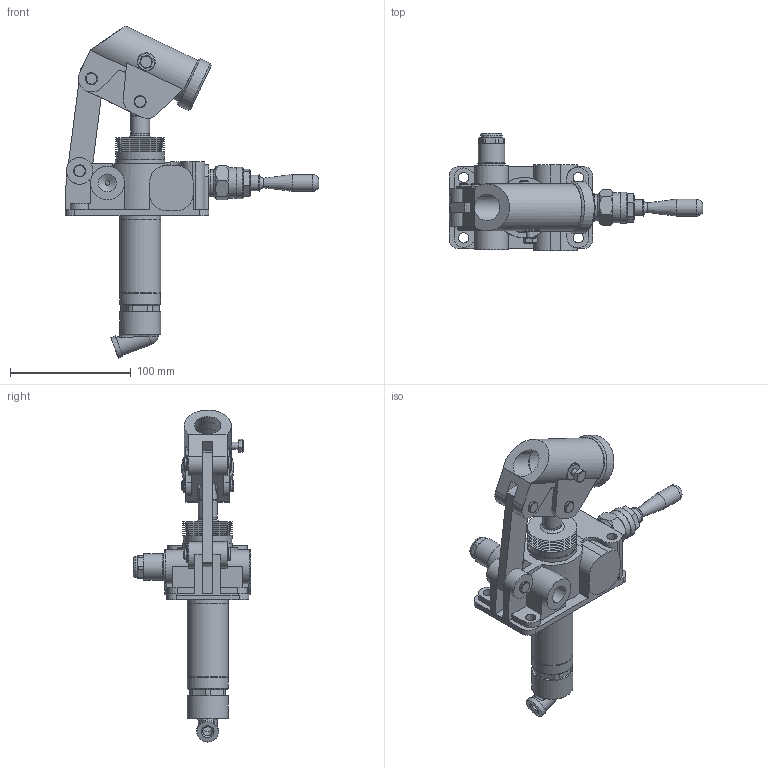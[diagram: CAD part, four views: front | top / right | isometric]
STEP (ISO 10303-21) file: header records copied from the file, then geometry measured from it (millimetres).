
FILE_DESCRIPTION(/* description */ ('Unknown'),/* implementation_level */ '2;1');
FILE_NAME(/* name */ 'HPT-MVS',/* time_stamp */ '2024-11-28T11:31:56+01:00',/* author */ ('Unknown'),/* organization */ ('Unknown'),/* preprocessor_version */ 'ST-DEVELOPER v19.4',/* originating_system */ 'Solid Edge',/* authorisation */ 'Unknown');
FILE_SCHEMA (('AUTOMOTIVE_DESIGN {1 0 10303 214 3 1 1}'));
Length unit declared in the file: millimetre
Products named in the file (1): HPT-MVS
Bounding box: 210 x 97 x 274.92 mm (x, y, z)
Volume: 509166.6 mm3; surface area: 141011.1 mm2
Topology: 10 solids, 10 shells, 2236 faces, 6156 edges, 3977 vertices
Faces by surface type: plane 1837, cylinder 265, cone 80, torus 30, bspline 19, sphere 5
Full cylindrical faces by diameter (mm): 2.5 x1, 3.5 x2, 4 x4, 5 x2, 5.1 x2, 5.994 x5, 7 x1, 7.792 x6, 8 x5, 8.092 x6, 8.1 x1, 8.376 x2, 8.5 x5, 8.566 x1, 9.2 x1, 9.99 x3, 10 x1, 10.5 x1, 11 x2, 11.5 x2, 13 x1, 13.2 x1, 13.9 x1, 14 x1, 14.2 x1, 14.9 x1, 14.95 x6, 15.3 x1, 15.8 x1, 16 x1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
Entity records: 87215 total; most frequent: CARTESIAN_POINT 16127, ORIENTED_EDGE 11594, DIRECTION 11050, EDGE_CURVE 5797, LINE 4760, VECTOR 4760, VERTEX_POINT 3849, AXIS2_PLACEMENT_3D 3145
